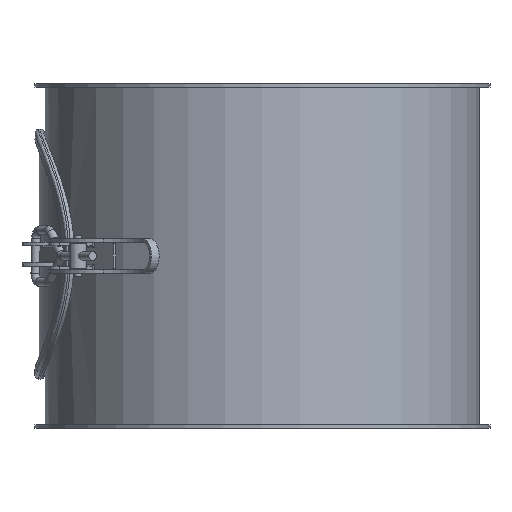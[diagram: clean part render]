
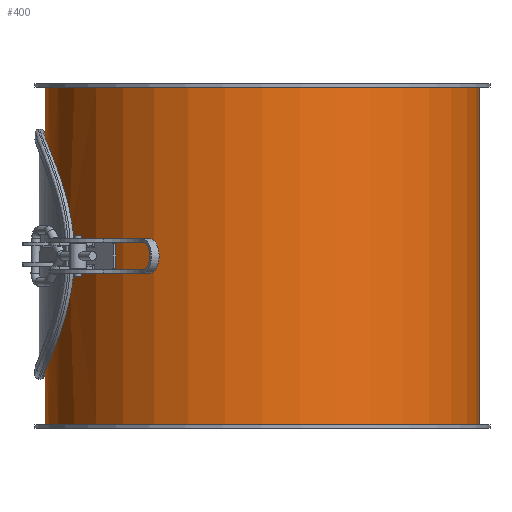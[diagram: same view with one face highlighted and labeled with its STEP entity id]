
A CAD part, front view. The second image highlights one B-rep face of the part: STEP entity #400.
In plain terms, the highlighted cylindrical face has radius 126 mm (diameter 252 mm), a full revolution.
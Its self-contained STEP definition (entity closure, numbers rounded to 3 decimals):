
#143=CARTESIAN_POINT('',(126.,0.,198.0));
#144=VERTEX_POINT('',#143);
#145=CARTESIAN_POINT('',(0.0,0.0,198.0));
#146=DIRECTION('',(0.0,0.0,-1.0));
#147=DIRECTION('',(-1.0,0.0,0.0));
#148=AXIS2_PLACEMENT_3D('',#145,#146,#147);
#149=CIRCLE('',#148,126.);
#150=EDGE_CURVE('',#144,#144,#149,.T.);
#191=CARTESIAN_POINT('',(-126.,0.,2.0));
#192=VERTEX_POINT('',#191);
#193=CARTESIAN_POINT('',(0.0,0.0,2.0));
#194=DIRECTION('',(0.0,0.0,1.0));
#195=DIRECTION('',(-1.0,0.0,0.0));
#196=AXIS2_PLACEMENT_3D('',#193,#194,#195);
#197=CIRCLE('',#196,126.);
#198=EDGE_CURVE('',#192,#192,#197,.T.);
#281=CARTESIAN_POINT('',(-112.115,-57.5,100.0));
#282=VERTEX_POINT('',#281);
#283=CARTESIAN_POINT('',(-112.115,-57.5,100.0));
#284=CARTESIAN_POINT('',(-112.115,-57.5,96.327));
#285=CARTESIAN_POINT('',(-112.301,-57.142,92.549));
#286=CARTESIAN_POINT('',(-113.043,-55.66,85.075));
#287=CARTESIAN_POINT('',(-113.598,-54.535,81.377));
#288=CARTESIAN_POINT('',(-114.967,-51.586,74.314));
#289=CARTESIAN_POINT('',(-115.78,-49.76,70.943));
#290=CARTESIAN_POINT('',(-117.497,-45.559,64.719));
#291=CARTESIAN_POINT('',(-118.399,-43.184,61.866));
#292=CARTESIAN_POINT('',(-120.119,-38.138,56.821));
#293=CARTESIAN_POINT('',(-121.001,-35.288,54.446));
#294=CARTESIAN_POINT('',(-122.645,-29.063,50.244));
#295=CARTESIAN_POINT('',(-123.406,-25.688,48.415));
#296=CARTESIAN_POINT('',(-124.668,-18.619,45.463));
#297=CARTESIAN_POINT('',(-125.17,-14.918,44.338));
#298=CARTESIAN_POINT('',(-125.836,-7.442,42.856));
#299=CARTESIAN_POINT('',(-126.,-3.667,42.5));
#300=CARTESIAN_POINT('',(-126.,3.667,42.5));
#301=CARTESIAN_POINT('',(-125.836,7.442,42.856));
#302=CARTESIAN_POINT('',(-125.17,14.918,44.338));
#303=CARTESIAN_POINT('',(-124.668,18.619,45.463));
#304=CARTESIAN_POINT('',(-123.406,25.688,48.415));
#305=CARTESIAN_POINT('',(-122.645,29.063,50.244));
#306=CARTESIAN_POINT('',(-121.001,35.288,54.446));
#307=CARTESIAN_POINT('',(-120.119,38.138,56.821));
#308=CARTESIAN_POINT('',(-118.399,43.184,61.866));
#309=CARTESIAN_POINT('',(-117.497,45.559,64.719));
#310=CARTESIAN_POINT('',(-115.78,49.76,70.943));
#311=CARTESIAN_POINT('',(-114.967,51.586,74.314));
#312=CARTESIAN_POINT('',(-113.598,54.535,81.377));
#313=CARTESIAN_POINT('',(-113.043,55.66,85.075));
#314=CARTESIAN_POINT('',(-112.301,57.142,92.549));
#315=CARTESIAN_POINT('',(-112.115,57.5,96.327));
#316=CARTESIAN_POINT('',(-112.115,57.5,103.673));
#317=CARTESIAN_POINT('',(-112.301,57.142,107.451));
#318=CARTESIAN_POINT('',(-113.043,55.66,114.925));
#319=CARTESIAN_POINT('',(-113.598,54.535,118.623));
#320=CARTESIAN_POINT('',(-114.967,51.586,125.686));
#321=CARTESIAN_POINT('',(-115.78,49.76,129.057));
#322=CARTESIAN_POINT('',(-117.497,45.559,135.281));
#323=CARTESIAN_POINT('',(-118.399,43.184,138.134));
#324=CARTESIAN_POINT('',(-120.119,38.138,143.179));
#325=CARTESIAN_POINT('',(-121.001,35.288,145.554));
#326=CARTESIAN_POINT('',(-122.645,29.063,149.756));
#327=CARTESIAN_POINT('',(-123.406,25.688,151.585));
#328=CARTESIAN_POINT('',(-124.668,18.619,154.537));
#329=CARTESIAN_POINT('',(-125.17,14.918,155.662));
#330=CARTESIAN_POINT('',(-125.836,7.442,157.144));
#331=CARTESIAN_POINT('',(-126.,3.667,157.5));
#332=CARTESIAN_POINT('',(-126.,-3.667,157.5));
#333=CARTESIAN_POINT('',(-125.836,-7.442,157.144));
#334=CARTESIAN_POINT('',(-125.17,-14.918,155.662));
#335=CARTESIAN_POINT('',(-124.668,-18.619,154.537));
#336=CARTESIAN_POINT('',(-123.406,-25.688,151.585));
#337=CARTESIAN_POINT('',(-122.645,-29.063,149.756));
#338=CARTESIAN_POINT('',(-121.001,-35.288,145.554));
#339=CARTESIAN_POINT('',(-120.119,-38.138,143.179));
#340=CARTESIAN_POINT('',(-118.399,-43.184,138.134));
#341=CARTESIAN_POINT('',(-117.497,-45.559,135.281));
#342=CARTESIAN_POINT('',(-115.78,-49.76,129.057));
#343=CARTESIAN_POINT('',(-114.967,-51.586,125.686));
#344=CARTESIAN_POINT('',(-113.598,-54.535,118.623));
#345=CARTESIAN_POINT('',(-113.043,-55.66,114.925));
#346=CARTESIAN_POINT('',(-112.301,-57.142,107.451));
#347=CARTESIAN_POINT('',(-112.115,-57.5,103.673));
#348=CARTESIAN_POINT('',(-112.115,-57.5,100.));
#349=B_SPLINE_CURVE_WITH_KNOTS('',3,(#283,#284,#285,#286,#287,#288,#289,#290,#291,#292,#293,#294,#295,#296,#297,#298,#299,#300,#301,#302,#303,#304,#305,#306,#307,#308,#309,#310,#311,#312,#313,#314,#315,#316,#317,#318,#319,#320,#321,#322,#323,#324,#325,#326,#327,#328,#329,#330,#331,#332,#333,#334,#335,#336,#337,#338,#339,#340,#341,#342,#343,#344,#345,#346,#347,#348),.UNSPECIFIED.,.T.,.U.,(4,2,2,2,2,2,2,2,2,2,2,2,2,2,2,2,2,2,2,2,2,2,2,2,2,2,2,2,2,2,2,2,4),(0.0,1.102,2.204,3.306,4.408,5.508,6.608,7.708,8.808,9.908,11.008,12.108,13.208,14.31,15.412,16.514,17.615,18.717,19.819,20.921,22.023,23.123,24.223,25.323,26.423,27.523,28.623,29.723,30.823,31.925,33.027,34.129,35.231),.UNSPECIFIED.);
#350=EDGE_CURVE('',#282,#282,#349,.T.);
#386=CARTESIAN_POINT('',(0.0,0.0,0.0));
#387=DIRECTION('',(0.0,0.0,1.0));
#388=DIRECTION('',(-1.0,0.0,0.0));
#389=AXIS2_PLACEMENT_3D('',#386,#387,#388);
#390=CYLINDRICAL_SURFACE('',#389,126.);
#391=ORIENTED_EDGE('',*,*,#150,.T.);
#392=EDGE_LOOP('',(#391));
#393=FACE_OUTER_BOUND('',#392,.T.);
#394=ORIENTED_EDGE('',*,*,#198,.T.);
#395=EDGE_LOOP('',(#394));
#396=FACE_BOUND('',#395,.T.);
#397=ORIENTED_EDGE('',*,*,#350,.T.);
#398=EDGE_LOOP('',(#397));
#399=FACE_BOUND('',#398,.T.);
#400=ADVANCED_FACE('',(#393,#396,#399),#390,.T.);
